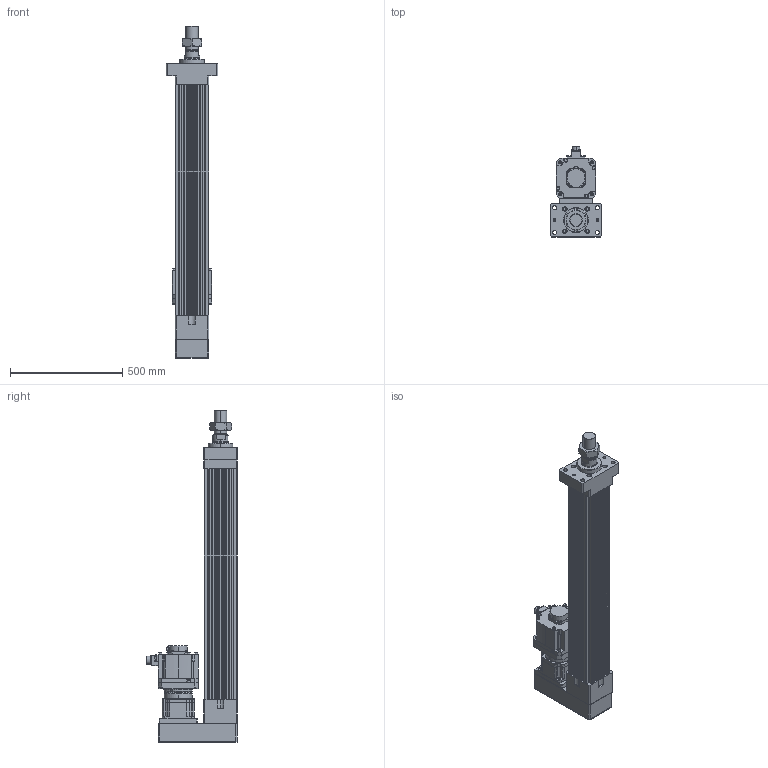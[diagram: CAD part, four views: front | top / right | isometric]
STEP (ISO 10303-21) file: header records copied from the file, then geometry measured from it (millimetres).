
FILE_DESCRIPTION (( 'STEP AP203' ), '1' );
FILE_NAME ('HES150NS(HS)-P750-W035G00-M-FMA.STEP', '2023-01-31T10:49:27', ( 'tms' ), ( '' ), 'SwSTEP 2.0', 'SolidWorks 2013', '' );
FILE_SCHEMA (( 'CONFIG_CONTROL_DESIGN' ));
Length unit declared in the file: millimetre
Products named in the file (9): P0403500801; M56X2.0P; P1301500001; AB142-003[HG-SR352]; AB1421; HES150 ROD M ST750; HES150NS(HS)-P750-W035G00-M-FMA; HG-SR352; HES150-P750-G142-FMA
Assembly tree (8 placements, depth 3):
  HES150NS(HS)-P750-W035G00-M-FMA
    HES150-P750-G142-FMA
    HES150 ROD M ST750
    M56X2.0P
    AB142-003[HG-SR352]
      AB1421
      P1301500001
      P0403500801
    HG-SR352
Bounding box: 230 x 403.85 x 1476 mm (x, y, z)
Volume: 23303164.5 mm3; surface area: 2386618 mm2
Topology: 4 solids, 18 shells, 1426 faces, 3722 edges, 2416 vertices
Faces by surface type: cylinder 669, plane 531, cone 144, bspline 76, torus 6
Entity records: 52806 total; most frequent: CARTESIAN_POINT 16363, DIRECTION 7620, ORIENTED_EDGE 7346, EDGE_CURVE 3695, AXIS2_PLACEMENT_3D 2898, VERTEX_POINT 2416, VECTOR 1824, LINE 1824
